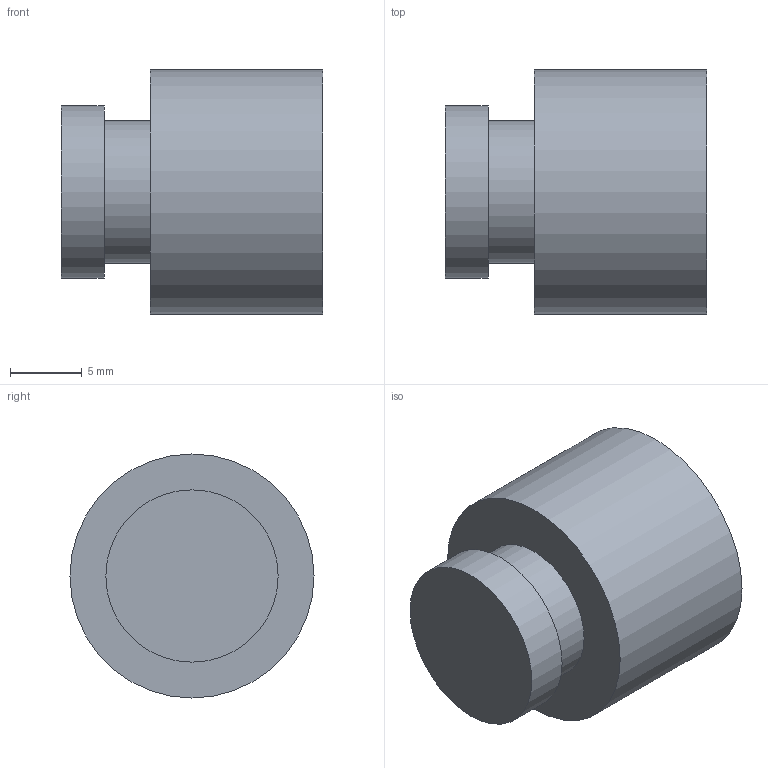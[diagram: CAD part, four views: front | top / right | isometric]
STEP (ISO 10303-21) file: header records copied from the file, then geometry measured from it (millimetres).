
FILE_DESCRIPTION(('Open CASCADE Model'),'2;1');
FILE_NAME('Open CASCADE Shape Model','2026-11-02T23:22:41',('Author'),( 'Open CASCADE'),'Open CASCADE STEP processor 7.9','Open CASCADE 7.9' ,'Unknown');
FILE_SCHEMA(('AUTOMOTIVE_DESIGN { 1 0 10303 214 1 1 1 1 }'));
Length unit declared in the file: millimetre
Products named in the file (1): Open CASCADE STEP translator 7.9 17
Bounding box: 18.2 x 17 x 17 mm (x, y, z)
Volume: 3308.7 mm3; surface area: 1379.6 mm2
Topology: 1 solids, 1 shells, 7 faces, 9 edges, 6 vertices
Faces by surface type: plane 4, cylinder 3
Full cylindrical faces by diameter (mm): 9.9 x1, 12 x1, 17 x1
Entity records: 282 total; most frequent: CARTESIAN_POINT 53, DIRECTION 47, ORIENTED_EDGE 18, PCURVE 18, DEFINITIONAL_REPRESENTATION 18, LINE 15, VECTOR 15, AXIS2_PLACEMENT_3D 14
